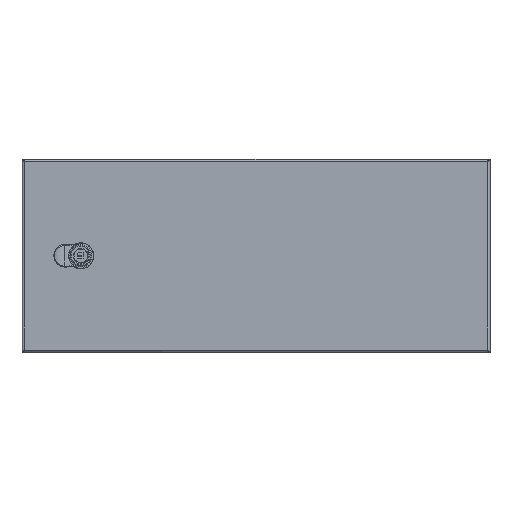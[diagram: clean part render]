
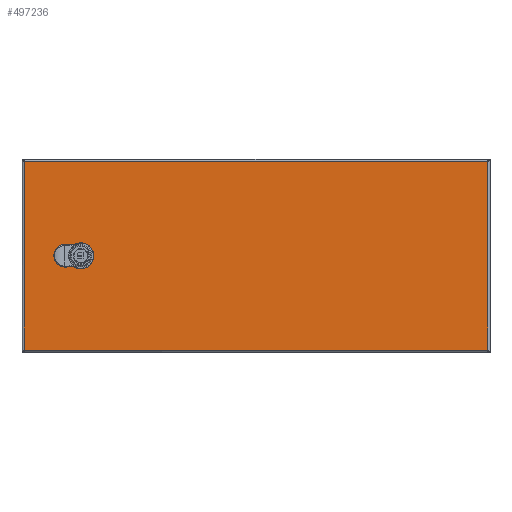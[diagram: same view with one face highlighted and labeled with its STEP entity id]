
A CAD part, top view. The second image highlights one B-rep face of the part: STEP entity #497236.
In plain terms, the highlighted planar face has unit normal (0, 0, 1).
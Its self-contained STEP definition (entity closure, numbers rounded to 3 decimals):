
#491146=CARTESIAN_POINT(' ',(289.389,122.733,269.003));
#491147=VERTEX_POINT(' ',#491146);
#491811=CARTESIAN_POINT(' ',(289.389,-116.667,269.003));
#491812=VERTEX_POINT(' ',#491811);
#492786=CARTESIAN_POINT(' ',(289.389,122.733,269.003));
#492791=DIRECTION(' ',(0.,-1.,0.));
#492796=VECTOR(' ',#492791,1.);
#492801=LINE('',#492786,#492796);
#492806=EDGE_CURVE(' ',#491147,#491812,#492801,.T.);
#495041=CARTESIAN_POINT(' ',(-299.011,-116.667,269.003));
#495042=VERTEX_POINT(' ',#495041);
#495656=CARTESIAN_POINT(' ',(-299.011,122.733,269.003));
#495657=VERTEX_POINT(' ',#495656);
#497106=DIRECTION(' ',(-0.,-0.,1.));
#497111=CARTESIAN_POINT(' ',(289.389,-116.667,269.003));
#497116=DIRECTION(' ',(0.,1.,0.));
#497121=AXIS2_PLACEMENT_3D(' ',#497111,#497106,#497116);
#497126=PLANE('NONE',#497121);
#497131=CARTESIAN_POINT(' ',(-299.011,-116.667,269.003));
#497136=DIRECTION(' ',(1.,0.,0.));
#497141=VECTOR(' ',#497136,1.);
#497146=LINE('',#497131,#497141);
#497151=EDGE_CURVE(' ',#495042,#491812,#497146,.T.);
#497156=ORIENTED_EDGE(' ',*,*,#497151,.T.);
#497161=ORIENTED_EDGE(' ',*,*,#492806,.F.);
#497166=CARTESIAN_POINT(' ',(289.389,122.733,269.003));
#497171=DIRECTION(' ',(-1.,0.,0.));
#497176=VECTOR(' ',#497171,1.);
#497181=LINE('',#497166,#497176);
#497186=EDGE_CURVE(' ',#491147,#495657,#497181,.T.);
#497191=ORIENTED_EDGE(' ',*,*,#497186,.T.);
#497196=CARTESIAN_POINT(' ',(-299.011,122.733,269.003));
#497201=DIRECTION(' ',(0.,-1.,0.));
#497206=VECTOR(' ',#497201,1.);
#497211=LINE('',#497196,#497206);
#497216=EDGE_CURVE(' ',#495657,#495042,#497211,.T.);
#497221=ORIENTED_EDGE(' ',*,*,#497216,.T.);
#497226=EDGE_LOOP(' ',(#497156,#497161,#497191,#497221));
#497231=FACE_OUTER_BOUND(' ',#497226,.T.);
#497236=ADVANCED_FACE('NONE',(#497231),#497126,.T.);
